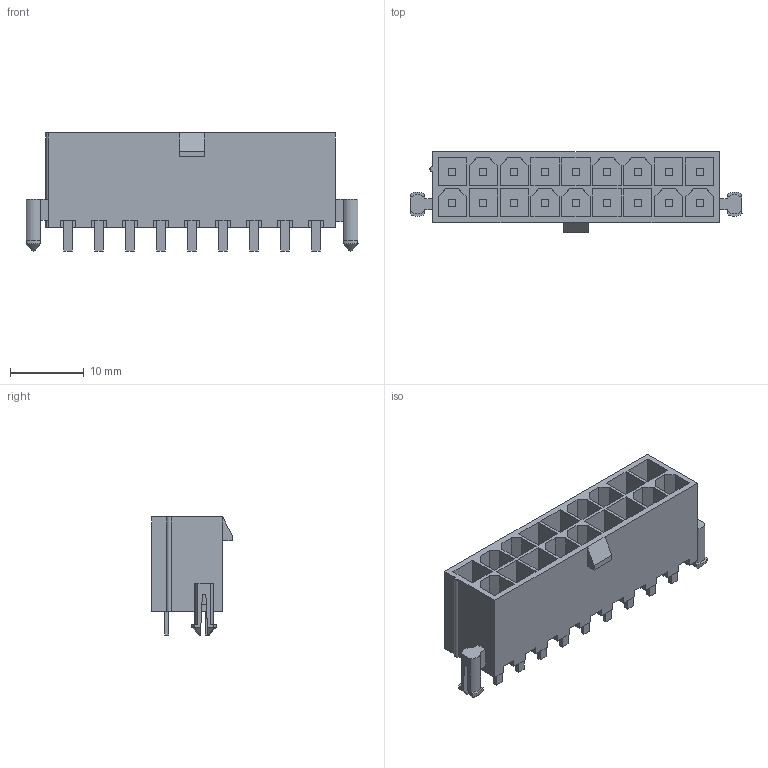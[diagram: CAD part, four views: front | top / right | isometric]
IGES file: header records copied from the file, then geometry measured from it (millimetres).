
Start section:  PTC IGES file: c-2-1775099-6-e-3d.igs
Global section: file name: c-2-1775099-6-e-3d.igs; native system: Creo Parametric by PTC Inc.; preprocessor: 2016050; author: workeradm; organization: Unknown; units: millimetre
Bounding box: 45 x 10.9 x 16 mm (x, y, z)
Surface area: 5311.7 mm2 (no closed solid volume)
Topology: 0 solids, 0 shells, 439 faces, 2258 edges, 2258 vertices
Faces by surface type: bspline 416, revolution 23
